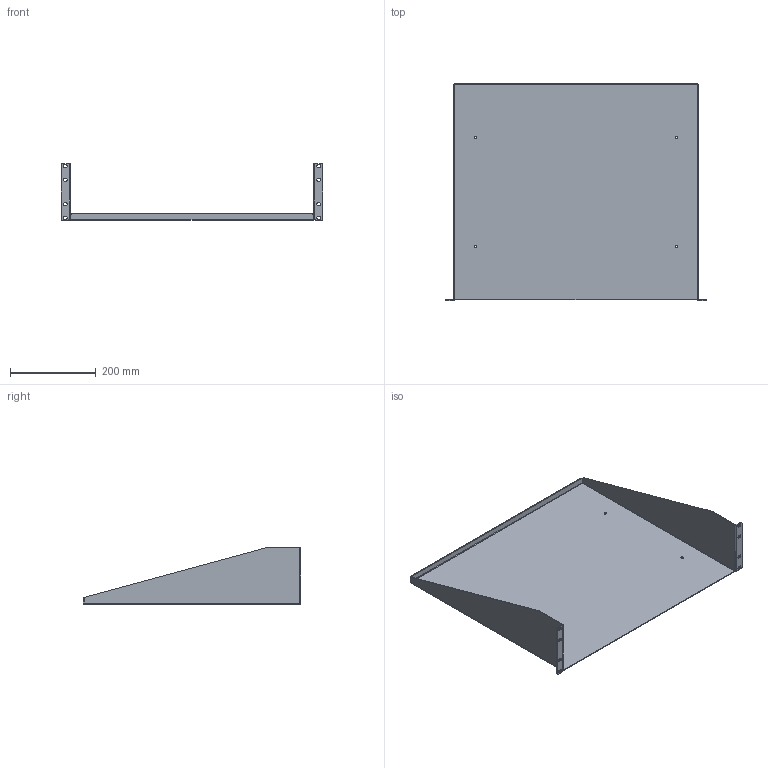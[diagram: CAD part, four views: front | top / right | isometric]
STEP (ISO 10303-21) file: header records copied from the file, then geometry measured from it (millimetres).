
FILE_DESCRIPTION( ( 'Unknown' ), '1' );
FILE_NAME( 'Q:/ACCESSORIES/SHELVES/RK _ RMA/WEB DRAWINGS/STEP/RASU240520.stp', 'Unknown', ( 'Unknown' ), ( 'Unknown' ), 'PSStep 10.1', 'Unknown', ' ' );
FILE_SCHEMA( ( 'AUTOMOTIVE_DESIGN { 1 0 10303 214 1 1 1 1 }' ) );
Length unit declared in the file: millimetre
Products named in the file (1): 1
Bounding box: 609.75 x 508 x 132.54 mm (x, y, z)
Volume: 700591.3 mm3; surface area: 771442.5 mm2
Topology: 1 solids, 1 shells, 100 faces, 274 edges, 176 vertices
Faces by surface type: plane 56, cylinder 40, bspline 4
Full cylindrical faces by diameter (mm): 6.35 x4
Entity records: 3445 total; most frequent: CARTESIAN_POINT 843, ORIENTED_EDGE 540, DIRECTION 524, EDGE_CURVE 270, AXIS2_PLACEMENT_3D 177, VERTEX_POINT 176, LINE 170, VECTOR 170
